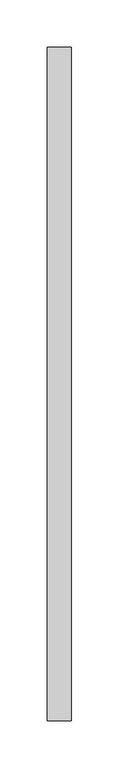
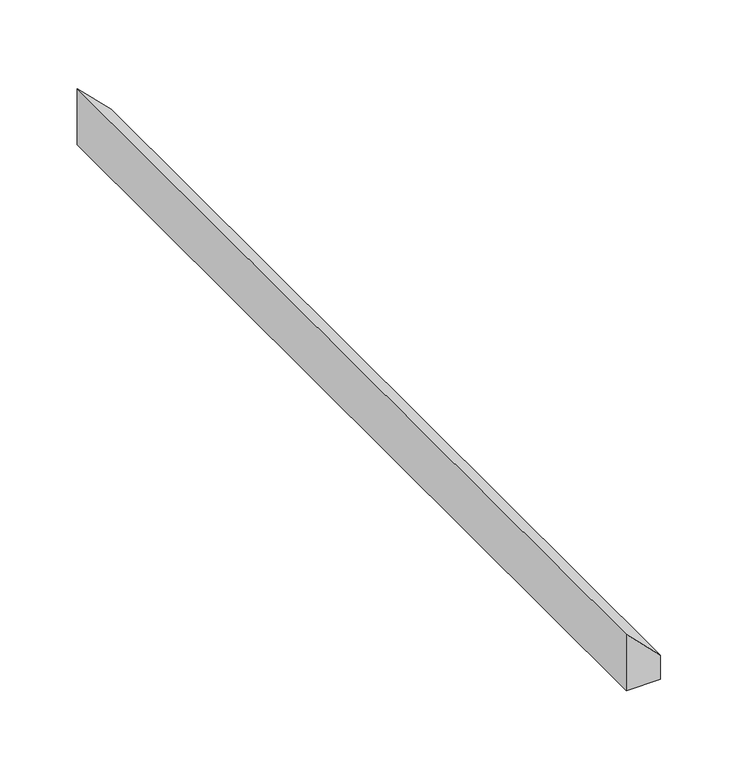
"""IFC4 building model written with IfcOpenShell, lengths in millimetres: proxy geometry, CAMBRIDGE^TABLE 2_4884 Rect-CORNER STILE 2."""

import ifcopenshell
import ifcopenshell.guid

model = None  # the IFC model being written
_history = None  # IfcOwnerHistory: only IFC2X3 demands one
_inside = {}  # id of a spatial element -> (the spatial element, [elements in it])
_under = {}  # id of a project, library or spatial element -> (it, [spatial elements below it])
_declared = {}  # id of a project -> (the project, [libraries it declares])
_typed = {}  # id of a type object -> (the type object, [elements of that type])
_made_of = {}  # id of a material, layer set ... -> (it, [elements and type objects made of it])


def new_model(schema):
    """Start an empty IFC model of exactly this schema.

    Asked for "IFC4X3", IfcOpenShell would pick the latest addendum, in which some entities
    have other attributes; the version numbers below select the first issue.
    IFC2X3 requires an IfcOwnerHistory on every rooted entity: one is made here for all.
    """
    global model, _history
    if schema == "IFC4X3":
        model = ifcopenshell.file(schema_version=(4, 3, 0, 0))
    else:
        model = ifcopenshell.file(schema=schema)
    _inside.clear()
    _under.clear()
    _declared.clear()
    _typed.clear()
    _made_of.clear()
    _history = None
    if model.schema == "IFC2X3":
        org = make("IfcOrganization", Name="unknown")
        user = make(
            "IfcPersonAndOrganization",
            ThePerson=make("IfcPerson", FamilyName="unknown"),
            TheOrganization=org,
        )
        app = make(
            "IfcApplication",
            ApplicationDeveloper=org,
            Version="unknown",
            ApplicationFullName="unknown",
            ApplicationIdentifier="unknown",
        )
        _history = make(
            "IfcOwnerHistory",
            OwningUser=user,
            OwningApplication=app,
            ChangeAction="ADDED",
            CreationDate=0,
        )
    return model


def make(cls, **values):
    """One entity of the class cls with the attributes given. An attribute that is None is left unset."""
    return model.create_entity(
        cls, **{name: value for name, value in values.items() if value is not None}
    )


def rooted(cls, **values):
    """An entity with a GlobalId (a new one), such as an element, a storey or a relation."""
    return make(cls, GlobalId=ifcopenshell.guid.new(), OwnerHistory=_history, **values)


def si_unit(unit_type, name, prefix=None):
    """IfcSIUnit, for example si_unit("LENGTHUNIT", "METRE", prefix="MILLI")."""
    return make("IfcSIUnit", UnitType=unit_type, Prefix=prefix, Name=name)


def assignment(units):
    """IfcUnitAssignment: the units of a project."""
    return None if units is None else make("IfcUnitAssignment", Units=units)


def point(xyz):
    """IfcCartesianPoint."""
    return None if xyz is None else make("IfcCartesianPoint", Coordinates=xyz)


def direction(xyz):
    """IfcDirection."""
    return None if xyz is None else make("IfcDirection", DirectionRatios=xyz)


def frame(location, z_axis=None, x_axis=None):
    """IfcAxis2Placement3D, a coordinate frame: its origin and axes. An axis left out is left unset."""
    return make(
        "IfcAxis2Placement3D",
        Location=point(location),
        Axis=direction(z_axis),
        RefDirection=direction(x_axis),
    )


def origin():
    """The frame at (0, 0, 0) with its axes left unset."""
    return frame((0.0, 0.0, 0.0))


def place(relative_to, where):
    """IfcLocalPlacement: puts the frame where relative to a parent placement (None: the world)."""
    return make(
        "IfcLocalPlacement", PlacementRelTo=relative_to, RelativePlacement=where
    )


def context(
    kind, dimensions, precision=None, world=None, true_north=None, identifier=None
):
    """IfcGeometricRepresentationContext, for example the 3D "Model" context."""
    return make(
        "IfcGeometricRepresentationContext",
        ContextIdentifier=identifier,
        ContextType=kind,
        CoordinateSpaceDimension=dimensions,
        Precision=precision,
        WorldCoordinateSystem=world,
        TrueNorth=true_north,
    )


def project(units=None, contexts=None):
    """IfcProject with its units and contexts."""
    return rooted(
        "IfcProject",
        Name="project",
        RepresentationContexts=contexts,
        UnitsInContext=assignment(units),
    )


def spatial(cls, under=None, at=None, **own):
    """A site, building, storey or space (cls), placed at a placement, below another one or the project."""
    s = rooted(cls, ObjectPlacement=at, **own)
    if under is not None:
        _under.setdefault(under.id(), (under, []))[1].append(s)
    return s


def polyline(points):
    """IfcPolyline through the points."""
    return make("IfcPolyline", Points=[point(p) for p in points])


def outline(outer, holes=None, kind="AREA"):
    """IfcArbitraryClosedProfileDef: a profile drawn as a closed curve; with holes, ...WithVoids."""
    if holes is None:
        return make("IfcArbitraryClosedProfileDef", ProfileType=kind, OuterCurve=outer)
    return make(
        "IfcArbitraryProfileDefWithVoids",
        ProfileType=kind,
        OuterCurve=outer,
        InnerCurves=holes,
    )


def extrude(swept, where, along, depth):
    """IfcExtrudedAreaSolid: the profile swept, set in the frame where, extruded along a direction by depth."""
    return make(
        "IfcExtrudedAreaSolid",
        SweptArea=swept,
        Position=where,
        ExtrudedDirection=direction(along),
        Depth=depth,
    )


def shape(context_of_items, identifier, shape_type, items):
    """IfcShapeRepresentation: the items that make up one representation, for example the "Body"."""
    return make(
        "IfcShapeRepresentation",
        ContextOfItems=context_of_items,
        RepresentationIdentifier=identifier,
        RepresentationType=shape_type,
        Items=items,
    )


def source(mapping_origin, context_of_items, identifier, shape_type, items):
    """IfcRepresentationMap: a shape defined once, which mapped items show again and again."""
    return make(
        "IfcRepresentationMap",
        MappingOrigin=mapping_origin,
        MappedRepresentation=shape(context_of_items, identifier, shape_type, items),
    )


def transform(
    local_origin,
    x_axis=None,
    y_axis=None,
    z_axis=None,
    scale=None,
    scale2=None,
    scale3=None,
    uniform=True,
):
    """IfcCartesianTransformationOperator3D, or its non-uniform kind. x_axis, y_axis, z_axis: its Axis1, 2, 3."""
    if uniform:
        return make(
            "IfcCartesianTransformationOperator3D",
            Axis1=direction(x_axis),
            Axis2=direction(y_axis),
            LocalOrigin=point(local_origin),
            Scale=scale,
            Axis3=direction(z_axis),
        )
    return make(
        "IfcCartesianTransformationOperator3DnonUniform",
        Axis1=direction(x_axis),
        Axis2=direction(y_axis),
        LocalOrigin=point(local_origin),
        Scale=scale,
        Axis3=direction(z_axis),
        Scale2=scale2,
        Scale3=scale3,
    )


def mapped(mapping_source, mapping_target):
    """IfcMappedItem: shows the shape of a source again, moved by a transform."""
    return make(
        "IfcMappedItem", MappingSource=mapping_source, MappingTarget=mapping_target
    )


def made_of(thing, what):
    """Note that an element or type object is made of a material, layer set ...; save() writes the relation."""
    if what is not None:
        _made_of.setdefault(what.id(), (what, []))[1].append(thing)
    return thing


def element(
    cls,
    number,
    at=None,
    inside=None,
    cuts=None,
    type_object=None,
    material=None,
    context=None,
    identifier="Body",
    shape_type=None,
    held_by="IfcProductDefinitionShape",
    body=None,
    shapes=None,
    **own,
):
    """One element of the class cls, such as IfcWall. Its Tag is "e" and its number.

    at: its placement. inside: the storey or other place that contains it. cuts: it is an
    opening in that element (IfcRelVoidsElement). A single representation is given by context,
    identifier, shape_type and body (its items); several are given by shapes. held_by: the class
    of the entity that holds the representations. save() writes the other relations.
    """
    e = rooted(cls, Tag="e%d" % number, ObjectPlacement=at, **own)
    if body is not None:
        shapes = [shape(context, identifier, shape_type, body)]
    if shapes is not None:
        e.Representation = make(held_by, Representations=shapes)
    if inside is not None:
        _inside.setdefault(inside.id(), (inside, []))[1].append(e)
    if cuts is not None:
        rooted(
            "IfcRelVoidsElement", RelatingBuildingElement=cuts, RelatedOpeningElement=e
        )
    if type_object is not None:
        _typed.setdefault(type_object.id(), (type_object, []))[1].append(e)
    return made_of(e, material)


def aggregate(whole, parts):
    """IfcRelAggregates: a whole, such as a stair, and the parts it consists of."""
    return rooted("IfcRelAggregates", RelatingObject=whole, RelatedObjects=parts)


def save(model, path):
    """Write the relations noted so far, then the file.

    IfcRelAggregates (storeys below a building ...), IfcRelContainedInSpatialStructure (elements
    in a storey), IfcRelDefinesByType, IfcRelAssociatesMaterial and IfcRelDeclares: one each for
    every whole, place, type object, material and project.
    """
    for whole, parts in _under.values():
        aggregate(whole, parts)
    for where, things in _inside.values():
        rooted(
            "IfcRelContainedInSpatialStructure",
            RelatedElements=things,
            RelatingStructure=where,
        )
    for kind, things in _typed.values():
        rooted("IfcRelDefinesByType", RelatedObjects=things, RelatingType=kind)
    for what, things in _made_of.values():
        rooted("IfcRelAssociatesMaterial", RelatedObjects=things, RelatingMaterial=what)
    for by, libraries in _declared.values():
        rooted("IfcRelDeclares", RelatingContext=by, RelatedDefinitions=libraries)
    model.write(path)


def generic_models_c23ebd90(model_context):
    return source(origin(), model_context, "Body", "SweptSolid", [
        extrude(outline(polyline([(-406.4, 609.6), (-450.85, 609.6), (-450.85, 635.0), (-431.8, 635.0), (-406.4, 609.6)])), frame((0.0, -711.2, 0.0), z_axis=(0.0, 1.0, 0.0), x_axis=(0.0, 0.0, 1.0)), (0.0, 0.0, 1.0), 711.2),
    ])


if __name__ == "__main__":
    model = new_model("IFC4")
    model_context = context("Model", 3, world=origin())
    ifc_project = project(units=[si_unit("LENGTHUNIT", "METRE", prefix="MILLI")], contexts=[model_context])
    site = spatial("IfcSite", under=ifc_project)
    building = spatial("IfcBuilding", under=site)
    placement = place(None, origin())
    generic_models_shape = generic_models_c23ebd90(model_context)
    element("IfcBuildingElementProxy", 1, Name="CAMBRIDGE^TABLE 2_4884 Rect-CORNER STILE 2", ObjectType="CAMBRIDGE^TABLE 2_4884 Rect-CORNER STILE 2", at=placement, inside=building, context=model_context, shape_type="MappedRepresentation", body=[
        mapped(generic_models_shape, transform((0.0, 0.0, 0.0), x_axis=(1.0, 0.0, 0.0), y_axis=(0.0, 1.0, 0.0), z_axis=(0.0, 0.0, 1.0))),
    ])
    save(model, "model.ifc")
